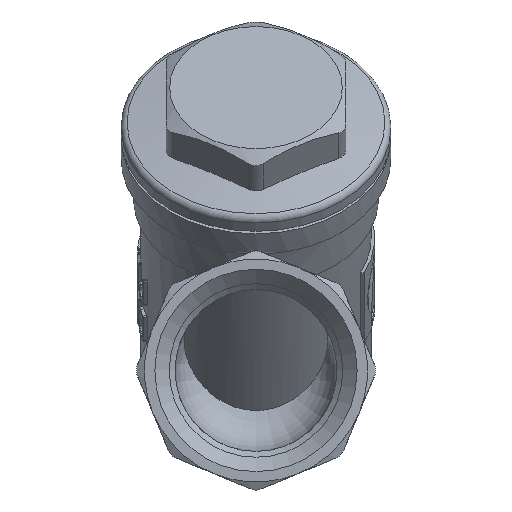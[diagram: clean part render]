
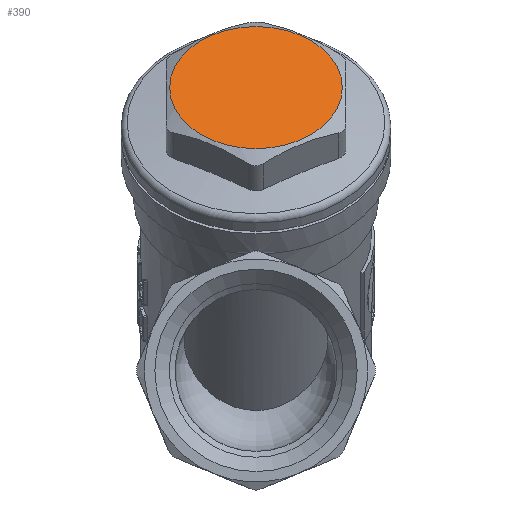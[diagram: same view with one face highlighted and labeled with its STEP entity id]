
A CAD part, front view. The second image highlights one B-rep face of the part: STEP entity #390.
In plain terms, the highlighted planar face has unit normal (0, -0.707, 0.707).
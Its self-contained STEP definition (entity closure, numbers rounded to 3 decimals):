
#390=ADVANCED_FACE('',(#2699),#2701,.F.);
#2699=FACE_BOUND('',#2700,.T.);
#2700=EDGE_LOOP('',(#4914));
#2701=PLANE('',#2702);
#2702=AXIS2_PLACEMENT_3D('',#2703,#2704,#2705);
#2703=CARTESIAN_POINT('',(0.,-26.815,39.315));
#2704=DIRECTION('',(0.,0.707,-0.707));
#2705=DIRECTION('',(-1.,0.,0.));
#4914=ORIENTED_EDGE('',*,*,#5825,.T.);
#5825=EDGE_CURVE('',#7350,#7350,#7351,.F.);
#7350=VERTEX_POINT('',#18879);
#7351=CIRCLE('',#18880,12.);
#18879=CARTESIAN_POINT('',(12.,-26.815,39.315));
#18880=AXIS2_PLACEMENT_3D('',#18881,#18882,#18883);
#18881=CARTESIAN_POINT('',(0.,-26.815,39.315));
#18882=DIRECTION('',(0.,0.707,-0.707));
#18883=DIRECTION('',(1.,0.,0.));
